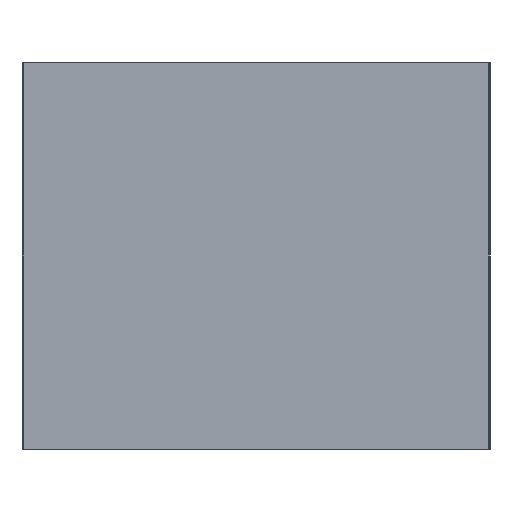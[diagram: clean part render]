
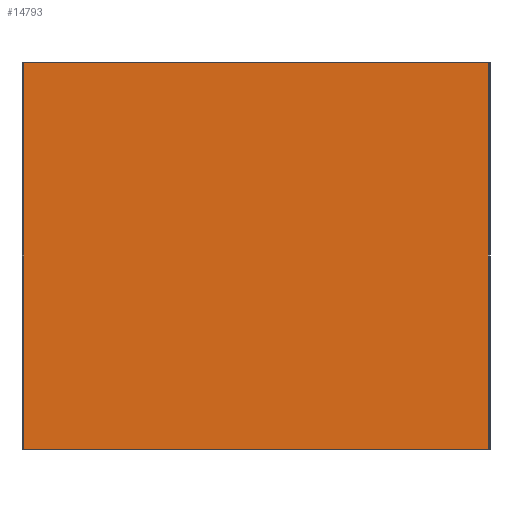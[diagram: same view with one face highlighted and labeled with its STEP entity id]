
A CAD part, left-side view. The second image highlights one B-rep face of the part: STEP entity #14793.
In plain terms, the highlighted planar face has unit normal (-1, 0, 0).
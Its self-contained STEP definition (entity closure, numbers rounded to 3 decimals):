
#1384 = VERTEX_POINT ( 'NONE', #31676 ) ;
#1386 = EDGE_CURVE ( 'NONE', #1384, #1406, #31670, .T. ) ;
#1406 = VERTEX_POINT ( 'NONE', #31837 ) ;
#14551 = DIRECTION ( 'NONE',  ( 0., -1., 0. ) ) ;
#14553 = VECTOR ( 'NONE', #14551, 1000. ) ;
#14555 = CARTESIAN_POINT ( 'NONE',  ( 82.272, 132.477, 100. ) ) ;
#14557 = LINE ( 'NONE', #14555, #14553 ) ;
#14561 = DIRECTION ( 'NONE',  ( 0., -1., 0. ) ) ;
#14563 = VECTOR ( 'NONE', #14561, 1000. ) ;
#14564 = CARTESIAN_POINT ( 'NONE',  ( 82.272, 132.477, 0. ) ) ;
#14566 = LINE ( 'NONE', #14564, #14563 ) ;
#14640 = CARTESIAN_POINT ( 'NONE',  ( 82.272, 252.477, 0. ) ) ;
#14661 = EDGE_LOOP ( 'NONE', ( #14662, #14664, #14665, #14667 ) ) ;
#14662 = ORIENTED_EDGE ( 'NONE', *, *, #14663, .T. ) ;
#14663 = EDGE_CURVE ( 'NONE', #14685, #1406, #14566, .T. ) ;
#14664 = ORIENTED_EDGE ( 'NONE', *, *, #1386, .F. ) ;
#14665 = ORIENTED_EDGE ( 'NONE', *, *, #14666, .F. ) ;
#14666 = EDGE_CURVE ( 'NONE', #14788, #1384, #14557, .T. ) ;
#14667 = ORIENTED_EDGE ( 'NONE', *, *, #14787, .T. ) ;
#14685 = VERTEX_POINT ( 'NONE', #14640 ) ;
#14745 = DIRECTION ( 'NONE',  ( 0., 0., -1. ) ) ;
#14747 = DIRECTION ( 'NONE',  ( 1., 0., 0. ) ) ;
#14749 = CARTESIAN_POINT ( 'NONE',  ( 82.272, 132.477, 100. ) ) ;
#14750 = AXIS2_PLACEMENT_3D ( 'NONE', #14749, #14747, #14745 ) ;
#14752 = PLANE ( 'NONE',  #14750 ) ;
#14757 = FACE_OUTER_BOUND ( 'NONE', #14661, .T. ) ;
#14772 = CARTESIAN_POINT ( 'NONE',  ( 82.272, 252.477, 100. ) ) ;
#14773 = DIRECTION ( 'NONE',  ( 0., 0., -1. ) ) ;
#14775 = VECTOR ( 'NONE', #14773, 1000. ) ;
#14777 = CARTESIAN_POINT ( 'NONE',  ( 82.272, 252.477, 100. ) ) ;
#14779 = LINE ( 'NONE', #14777, #14775 ) ;
#14787 = EDGE_CURVE ( 'NONE', #14788, #14685, #14779, .T. ) ;
#14788 = VERTEX_POINT ( 'NONE', #14772 ) ;
#14793 = ADVANCED_FACE ( 'NONE', ( #14757 ), #14752, .F. ) ;
#31667 = DIRECTION ( 'NONE',  ( 0., 0., -1. ) ) ;
#31668 = VECTOR ( 'NONE', #31667, 1000. ) ;
#31669 = CARTESIAN_POINT ( 'NONE',  ( 82.272, 132.477, 100. ) ) ;
#31670 = LINE ( 'NONE', #31669, #31668 ) ;
#31676 = CARTESIAN_POINT ( 'NONE',  ( 82.272, 132.477, 100. ) ) ;
#31837 = CARTESIAN_POINT ( 'NONE',  ( 82.272, 132.477, 0. ) ) ;
